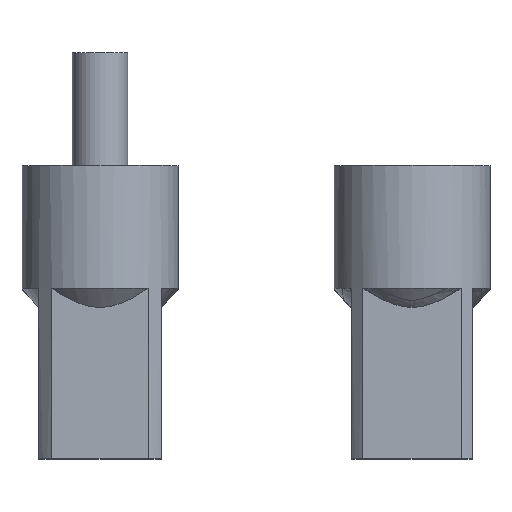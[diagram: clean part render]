
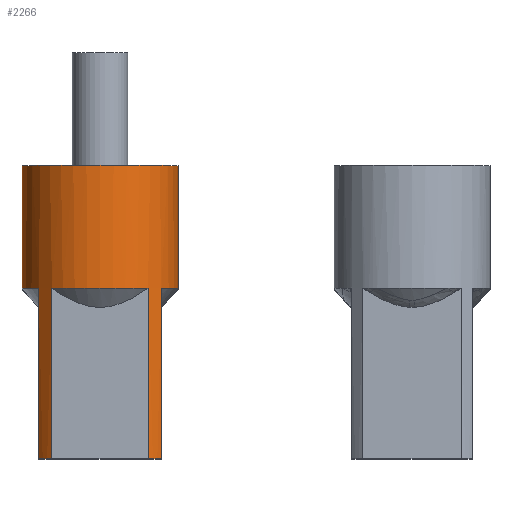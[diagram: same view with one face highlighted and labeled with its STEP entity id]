
A CAD part, top view. The second image highlights one B-rep face of the part: STEP entity #2266.
In plain terms, the highlighted cylindrical face has radius 8.25 mm (diameter 16.5 mm), a full revolution.
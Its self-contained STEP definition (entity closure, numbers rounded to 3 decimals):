
#328=FACE_OUTER_BOUND('',#485,.T.);
#485=EDGE_LOOP('',(#1646,#1647,#1648,#1649,#1650,#1651,#1652,#1653,#1654,
#1655,#1656,#1657,#1658,#1659,#1660,#1661,#1662,#1663,#1664,#1665));
#631=LINE('',#3391,#712);
#632=LINE('',#3393,#713);
#633=LINE('',#3396,#714);
#634=LINE('',#3398,#715);
#635=LINE('',#3401,#716);
#636=LINE('',#3403,#717);
#637=LINE('',#3406,#718);
#638=LINE('',#3408,#719);
#639=LINE('',#3411,#720);
#712=VECTOR('',#2815,8.25);
#713=VECTOR('',#2816,10.);
#714=VECTOR('',#2819,10.);
#715=VECTOR('',#2820,10.);
#716=VECTOR('',#2823,10.);
#717=VECTOR('',#2824,10.);
#718=VECTOR('',#2827,10.);
#719=VECTOR('',#2828,10.);
#720=VECTOR('',#2831,10.);
#794=CIRCLE('',#2456,8.25);
#795=CIRCLE('',#2457,8.25);
#797=CIRCLE('',#2461,8.25);
#799=CIRCLE('',#2465,8.25);
#801=CIRCLE('',#2469,8.25);
#802=CIRCLE('',#2472,8.25);
#803=CIRCLE('',#2474,8.25);
#804=CIRCLE('',#2475,8.25);
#805=CIRCLE('',#2476,8.25);
#806=CIRCLE('',#2477,8.25);
#959=VERTEX_POINT('',#3326);
#962=VERTEX_POINT('',#3333);
#963=VERTEX_POINT('',#3337);
#964=VERTEX_POINT('',#3343);
#967=VERTEX_POINT('',#3350);
#968=VERTEX_POINT('',#3358);
#971=VERTEX_POINT('',#3365);
#972=VERTEX_POINT('',#3373);
#975=VERTEX_POINT('',#3380);
#976=VERTEX_POINT('',#3388);
#977=VERTEX_POINT('',#3392);
#978=VERTEX_POINT('',#3394);
#979=VERTEX_POINT('',#3397);
#980=VERTEX_POINT('',#3399);
#981=VERTEX_POINT('',#3402);
#982=VERTEX_POINT('',#3404);
#983=VERTEX_POINT('',#3407);
#984=VERTEX_POINT('',#3409);
#1208=EDGE_CURVE('',#962,#963,#794,.T.);
#1209=EDGE_CURVE('',#963,#959,#795,.T.);
#1214=EDGE_CURVE('',#967,#964,#797,.T.);
#1219=EDGE_CURVE('',#971,#968,#799,.T.);
#1224=EDGE_CURVE('',#975,#972,#801,.T.);
#1226=EDGE_CURVE('',#976,#976,#802,.T.);
#1227=EDGE_CURVE('',#976,#963,#631,.T.);
#1228=EDGE_CURVE('',#977,#962,#632,.T.);
#1229=EDGE_CURVE('',#978,#977,#803,.T.);
#1230=EDGE_CURVE('',#964,#978,#633,.T.);
#1231=EDGE_CURVE('',#979,#967,#634,.T.);
#1232=EDGE_CURVE('',#980,#979,#804,.T.);
#1233=EDGE_CURVE('',#968,#980,#635,.T.);
#1234=EDGE_CURVE('',#981,#971,#636,.T.);
#1235=EDGE_CURVE('',#982,#981,#805,.T.);
#1236=EDGE_CURVE('',#972,#982,#637,.T.);
#1237=EDGE_CURVE('',#983,#975,#638,.T.);
#1238=EDGE_CURVE('',#984,#983,#806,.T.);
#1239=EDGE_CURVE('',#959,#984,#639,.T.);
#1646=ORIENTED_EDGE('',*,*,#1226,.F.);
#1647=ORIENTED_EDGE('',*,*,#1227,.T.);
#1648=ORIENTED_EDGE('',*,*,#1208,.F.);
#1649=ORIENTED_EDGE('',*,*,#1228,.F.);
#1650=ORIENTED_EDGE('',*,*,#1229,.F.);
#1651=ORIENTED_EDGE('',*,*,#1230,.F.);
#1652=ORIENTED_EDGE('',*,*,#1214,.F.);
#1653=ORIENTED_EDGE('',*,*,#1231,.F.);
#1654=ORIENTED_EDGE('',*,*,#1232,.F.);
#1655=ORIENTED_EDGE('',*,*,#1233,.F.);
#1656=ORIENTED_EDGE('',*,*,#1219,.F.);
#1657=ORIENTED_EDGE('',*,*,#1234,.F.);
#1658=ORIENTED_EDGE('',*,*,#1235,.F.);
#1659=ORIENTED_EDGE('',*,*,#1236,.F.);
#1660=ORIENTED_EDGE('',*,*,#1224,.F.);
#1661=ORIENTED_EDGE('',*,*,#1237,.F.);
#1662=ORIENTED_EDGE('',*,*,#1238,.F.);
#1663=ORIENTED_EDGE('',*,*,#1239,.F.);
#1664=ORIENTED_EDGE('',*,*,#1209,.F.);
#1665=ORIENTED_EDGE('',*,*,#1227,.F.);
#2218=CYLINDRICAL_SURFACE('',#2473,8.25);
#2266=ADVANCED_FACE('',(#328),#2218,.T.);
#2456=AXIS2_PLACEMENT_3D('',#3338,#2775,#2776);
#2457=AXIS2_PLACEMENT_3D('',#3339,#2777,#2778);
#2461=AXIS2_PLACEMENT_3D('',#3354,#2786,#2787);
#2465=AXIS2_PLACEMENT_3D('',#3369,#2795,#2796);
#2469=AXIS2_PLACEMENT_3D('',#3384,#2804,#2805);
#2472=AXIS2_PLACEMENT_3D('',#3389,#2811,#2812);
#2473=AXIS2_PLACEMENT_3D('',#3390,#2813,#2814);
#2474=AXIS2_PLACEMENT_3D('',#3395,#2817,#2818);
#2475=AXIS2_PLACEMENT_3D('',#3400,#2821,#2822);
#2476=AXIS2_PLACEMENT_3D('',#3405,#2825,#2826);
#2477=AXIS2_PLACEMENT_3D('',#3410,#2829,#2830);
#2775=DIRECTION('center_axis',(0.,-1.,0.));
#2776=DIRECTION('ref_axis',(1.,0.,0.));
#2777=DIRECTION('center_axis',(0.,-1.,0.));
#2778=DIRECTION('ref_axis',(1.,0.,0.));
#2786=DIRECTION('center_axis',(0.,-1.,0.));
#2787=DIRECTION('ref_axis',(-1.,0.,0.));
#2795=DIRECTION('center_axis',(0.,-1.,0.));
#2796=DIRECTION('ref_axis',(-1.,0.,0.));
#2804=DIRECTION('center_axis',(0.,-1.,0.));
#2805=DIRECTION('ref_axis',(-1.,0.,0.));
#2811=DIRECTION('center_axis',(0.,1.,0.));
#2812=DIRECTION('ref_axis',(-1.,0.,0.));
#2813=DIRECTION('center_axis',(0.,-1.,0.));
#2814=DIRECTION('ref_axis',(-1.,0.,0.));
#2815=DIRECTION('',(0.,-1.,0.));
#2816=DIRECTION('',(0.,1.,0.));
#2817=DIRECTION('center_axis',(0.,-1.,0.));
#2818=DIRECTION('ref_axis',(-1.,0.,0.));
#2819=DIRECTION('',(0.,-1.,0.));
#2820=DIRECTION('',(0.,1.,0.));
#2821=DIRECTION('center_axis',(0.,-1.,0.));
#2822=DIRECTION('ref_axis',(-1.,0.,0.));
#2823=DIRECTION('',(0.,-1.,0.));
#2824=DIRECTION('',(0.,1.,0.));
#2825=DIRECTION('center_axis',(0.,-1.,0.));
#2826=DIRECTION('ref_axis',(-1.,0.,0.));
#2827=DIRECTION('',(0.,-1.,0.));
#2828=DIRECTION('',(0.,1.,0.));
#2829=DIRECTION('center_axis',(0.,-1.,0.));
#2830=DIRECTION('ref_axis',(-1.,0.,0.));
#2831=DIRECTION('',(0.,-1.,0.));
#3326=CARTESIAN_POINT('',(13.,18.,47.581));
#3333=CARTESIAN_POINT('',(13.,18.,37.419));
#3337=CARTESIAN_POINT('',(14.75,18.,42.5));
#3338=CARTESIAN_POINT('Origin',(6.5,18.,42.5));
#3339=CARTESIAN_POINT('Origin',(6.5,18.,42.5));
#3343=CARTESIAN_POINT('',(11.581,18.,36.));
#3350=CARTESIAN_POINT('',(1.419,18.,36.));
#3354=CARTESIAN_POINT('Origin',(6.5,18.,42.5));
#3358=CARTESIAN_POINT('',(0.,18.,37.419));
#3365=CARTESIAN_POINT('',(0.,18.,47.581));
#3369=CARTESIAN_POINT('Origin',(6.5,18.,42.5));
#3373=CARTESIAN_POINT('',(1.419,18.,49.));
#3380=CARTESIAN_POINT('',(11.581,18.,49.));
#3384=CARTESIAN_POINT('Origin',(6.5,18.,42.5));
#3388=CARTESIAN_POINT('',(14.75,31.,42.5));
#3389=CARTESIAN_POINT('Origin',(6.5,31.,42.5));
#3390=CARTESIAN_POINT('Origin',(6.5,16.,42.5));
#3391=CARTESIAN_POINT('',(14.75,16.,42.5));
#3392=CARTESIAN_POINT('',(13.,0.,37.419));
#3393=CARTESIAN_POINT('',(13.,16.,37.419));
#3394=CARTESIAN_POINT('',(11.581,0.,36.));
#3395=CARTESIAN_POINT('Origin',(6.5,0.,42.5));
#3396=CARTESIAN_POINT('',(11.581,16.,36.));
#3397=CARTESIAN_POINT('',(1.419,0.,36.));
#3398=CARTESIAN_POINT('',(1.419,16.,36.));
#3399=CARTESIAN_POINT('',(0.,0.,37.419));
#3400=CARTESIAN_POINT('Origin',(6.5,0.,42.5));
#3401=CARTESIAN_POINT('',(0.,16.,37.419));
#3402=CARTESIAN_POINT('',(0.,0.,47.581));
#3403=CARTESIAN_POINT('',(0.,16.,47.581));
#3404=CARTESIAN_POINT('',(1.419,0.,49.));
#3405=CARTESIAN_POINT('Origin',(6.5,0.,42.5));
#3406=CARTESIAN_POINT('',(1.419,16.,49.));
#3407=CARTESIAN_POINT('',(11.581,0.,49.));
#3408=CARTESIAN_POINT('',(11.581,16.,49.));
#3409=CARTESIAN_POINT('',(13.,0.,47.581));
#3410=CARTESIAN_POINT('Origin',(6.5,0.,42.5));
#3411=CARTESIAN_POINT('',(13.,16.,47.581));
